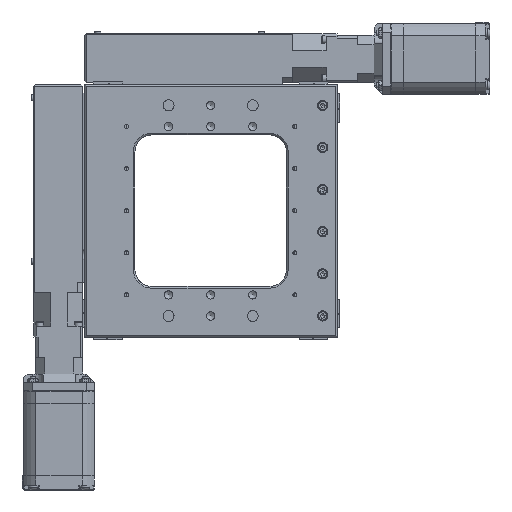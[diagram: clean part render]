
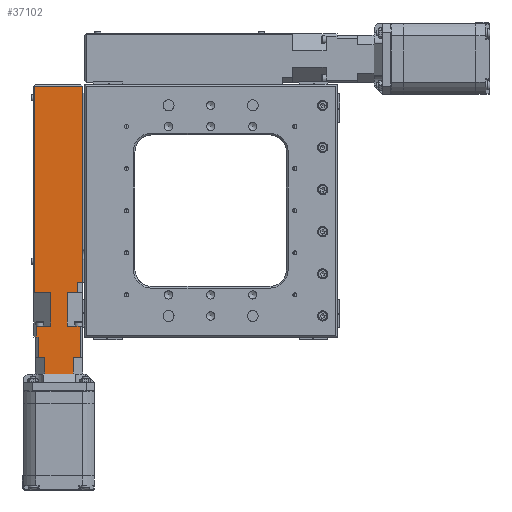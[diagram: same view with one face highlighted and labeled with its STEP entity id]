
A CAD part, front view. The second image highlights one B-rep face of the part: STEP entity #37102.
In plain terms, the highlighted planar face has unit normal (0, -1, 0).
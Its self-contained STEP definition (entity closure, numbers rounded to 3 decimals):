
#1402=LINE($,#57243,#4260);
#1866=LINE($,#59445,#4724);
#1896=LINE($,#59521,#4754);
#1915=LINE($,#59562,#4773);
#1933=LINE($,#59603,#4791);
#1967=LINE($,#59672,#4825);
#1978=LINE($,#59697,#4836);
#1979=LINE($,#59699,#4837);
#1985=LINE($,#59711,#4843);
#1990=LINE($,#59720,#4848);
#1992=LINE($,#59724,#4850);
#1996=LINE($,#59732,#4854);
#1997=LINE($,#59734,#4855);
#1998=LINE($,#59738,#4856);
#1999=LINE($,#59747,#4857);
#2000=LINE($,#59749,#4858);
#2001=LINE($,#59751,#4859);
#2002=LINE($,#59752,#4860);
#2003=LINE($,#59754,#4861);
#2004=LINE($,#59755,#4862);
#4260=VECTOR($,#46546,17.);
#4724=VECTOR($,#48606,28.5);
#4754=VECTOR($,#48664,116.5);
#4773=VECTOR($,#48701,122.5);
#4791=VECTOR($,#48729,18.5);
#4825=VECTOR($,#48777,6.5);
#4836=VECTOR($,#48802,6.);
#4837=VECTOR($,#48805,3.);
#4843=VECTOR($,#48819,6.);
#4848=VECTOR($,#48830,9.5);
#4850=VECTOR($,#48834,20.);
#4854=VECTOR($,#48844,20.);
#4855=VECTOR($,#48847,7.5);
#4856=VECTOR($,#48852,8.5);
#4857=VECTOR($,#48863,1.);
#4858=VECTOR($,#48864,12.);
#4859=VECTOR($,#48865,4.);
#4860=VECTOR($,#48866,10.);
#4861=VECTOR($,#48867,10.);
#4862=VECTOR($,#48868,4.);
#7475=PLANE($,#40849);
#10932=FACE_OUTER_BOUND($,#13739,.T.);
#13739=EDGE_LOOP($,(#30875,#30876,#30877,#30878,#30879,#30880,#30881,#30882,
#30883,#30884,#30885,#30886,#30887,#30888,#30889,#30890,#30891,#30892,#30893,
#30894));
#17879=VERTEX_POINT($,#57240);
#17880=VERTEX_POINT($,#57242);
#18478=VERTEX_POINT($,#59433);
#18482=VERTEX_POINT($,#59443);
#18514=VERTEX_POINT($,#59520);
#18527=VERTEX_POINT($,#59560);
#18544=VERTEX_POINT($,#59600);
#18545=VERTEX_POINT($,#59602);
#18572=VERTEX_POINT($,#59669);
#18573=VERTEX_POINT($,#59671);
#18579=VERTEX_POINT($,#59693);
#18580=VERTEX_POINT($,#59695);
#18582=VERTEX_POINT($,#59710);
#18583=VERTEX_POINT($,#59718);
#18584=VERTEX_POINT($,#59722);
#18585=VERTEX_POINT($,#59730);
#18589=VERTEX_POINT($,#59746);
#18590=VERTEX_POINT($,#59748);
#18591=VERTEX_POINT($,#59750);
#18592=VERTEX_POINT($,#59753);
#21941=EDGE_CURVE($,#17879,#17880,#1402,.T.);
#22870=EDGE_CURVE($,#18482,#18478,#1866,.T.);
#22906=EDGE_CURVE($,#18514,#18478,#1896,.T.);
#22927=EDGE_CURVE($,#18527,#18482,#1915,.T.);
#22947=EDGE_CURVE($,#18544,#18545,#1933,.T.);
#22983=EDGE_CURVE($,#18572,#18573,#1967,.T.);
#22996=EDGE_CURVE($,#18579,#18580,#1978,.T.);
#22997=EDGE_CURVE($,#18580,#18514,#1979,.T.);
#23003=EDGE_CURVE($,#18582,#18579,#1985,.T.);
#23008=EDGE_CURVE($,#18527,#18583,#1990,.T.);
#23010=EDGE_CURVE($,#18584,#18583,#1992,.T.);
#23014=EDGE_CURVE($,#18585,#18582,#1996,.T.);
#23015=EDGE_CURVE($,#18585,#18544,#1997,.T.);
#23017=EDGE_CURVE($,#18573,#18584,#1998,.T.);
#23020=EDGE_CURVE($,#18572,#18589,#1999,.T.);
#23021=EDGE_CURVE($,#18590,#18589,#2000,.T.);
#23022=EDGE_CURVE($,#18590,#18591,#2001,.T.);
#23023=EDGE_CURVE($,#18591,#17880,#2002,.T.);
#23024=EDGE_CURVE($,#17879,#18592,#2003,.T.);
#23025=EDGE_CURVE($,#18592,#18545,#2004,.T.);
#30875=ORIENTED_EDGE($,*,*,#22927,.F.);
#30876=ORIENTED_EDGE($,*,*,#23008,.T.);
#30877=ORIENTED_EDGE($,*,*,#23010,.F.);
#30878=ORIENTED_EDGE($,*,*,#23017,.F.);
#30879=ORIENTED_EDGE($,*,*,#22983,.F.);
#30880=ORIENTED_EDGE($,*,*,#23020,.T.);
#30881=ORIENTED_EDGE($,*,*,#23021,.F.);
#30882=ORIENTED_EDGE($,*,*,#23022,.T.);
#30883=ORIENTED_EDGE($,*,*,#23023,.T.);
#30884=ORIENTED_EDGE($,*,*,#21941,.F.);
#30885=ORIENTED_EDGE($,*,*,#23024,.T.);
#30886=ORIENTED_EDGE($,*,*,#23025,.T.);
#30887=ORIENTED_EDGE($,*,*,#22947,.F.);
#30888=ORIENTED_EDGE($,*,*,#23015,.F.);
#30889=ORIENTED_EDGE($,*,*,#23014,.T.);
#30890=ORIENTED_EDGE($,*,*,#23003,.T.);
#30891=ORIENTED_EDGE($,*,*,#22996,.T.);
#30892=ORIENTED_EDGE($,*,*,#22997,.T.);
#30893=ORIENTED_EDGE($,*,*,#22906,.T.);
#30894=ORIENTED_EDGE($,*,*,#22870,.F.);
#37102=ADVANCED_FACE($,(#10932),#7475,.T.);
#40849=AXIS2_PLACEMENT_3D($,#59745,#48861,#48862);
#46546=DIRECTION($,(-1.,0.,0.));
#48606=DIRECTION($,(1.,0.,0.));
#48664=DIRECTION($,(0.,0.,1.));
#48701=DIRECTION($,(0.,0.,1.));
#48729=DIRECTION($,(0.,0.,-1.));
#48777=DIRECTION($,(0.,0.,1.));
#48802=DIRECTION($,(0.,0.,1.));
#48805=DIRECTION($,(1.,0.,0.));
#48819=DIRECTION($,(1.,0.,0.));
#48830=DIRECTION($,(1.,0.,0.));
#48834=DIRECTION($,(0.,0.,1.));
#48844=DIRECTION($,(0.,0.,1.));
#48847=DIRECTION($,(1.,0.,0.));
#48852=DIRECTION($,(1.,0.,0.));
#48861=DIRECTION('center_axis',(0.,-1.,0.));
#48862=DIRECTION('ref_axis',(1.,0.,0.));
#48863=DIRECTION($,(1.,0.,0.));
#48864=DIRECTION($,(0.,0.,1.));
#48865=DIRECTION($,(1.,0.,0.));
#48866=DIRECTION($,(0.,0.,-1.));
#48867=DIRECTION($,(0.,0.,1.));
#48868=DIRECTION($,(1.,0.,0.));
#57240=CARTESIAN_POINT('',(9.249,-58.976,-22.));
#57242=CARTESIAN_POINT('',(-7.751,-58.976,-22.));
#57243=CARTESIAN_POINT($,(-6.251,-58.976,-22.));
#59433=CARTESIAN_POINT('',(14.749,-58.976,149.));
#59443=CARTESIAN_POINT('',(-13.751,-58.976,149.));
#59445=CARTESIAN_POINT($,(7.499,-58.976,149.));
#59520=CARTESIAN_POINT('',(14.749,-58.976,32.5));
#59521=CARTESIAN_POINT($,(14.749,-58.976,26.5));
#59560=CARTESIAN_POINT('',(-13.751,-58.976,26.5));
#59562=CARTESIAN_POINT($,(-13.751,-58.976,0.));
#59600=CARTESIAN_POINT('',(13.249,-58.976,6.5));
#59602=CARTESIAN_POINT('',(13.249,-58.976,-12.));
#59603=CARTESIAN_POINT($,(13.249,-58.976,-22.));
#59669=CARTESIAN_POINT('',(-12.751,-58.976,0.));
#59671=CARTESIAN_POINT('',(-12.751,-58.976,6.5));
#59672=CARTESIAN_POINT($,(-12.751,-58.976,0.));
#59693=CARTESIAN_POINT('',(11.749,-58.976,26.5));
#59695=CARTESIAN_POINT('',(11.749,-58.976,32.5));
#59697=CARTESIAN_POINT($,(11.749,-58.976,13.25));
#59699=CARTESIAN_POINT($,(-0.282,-58.976,32.5));
#59710=CARTESIAN_POINT('',(5.749,-58.976,26.5));
#59711=CARTESIAN_POINT($,(-14.251,-58.976,26.5));
#59718=CARTESIAN_POINT('',(-4.251,-58.976,26.5));
#59720=CARTESIAN_POINT($,(-14.251,-58.976,26.5));
#59722=CARTESIAN_POINT('',(-4.251,-58.976,6.5));
#59724=CARTESIAN_POINT($,(-4.251,-58.976,6.5));
#59730=CARTESIAN_POINT('',(5.749,-58.976,6.5));
#59732=CARTESIAN_POINT($,(5.749,-58.976,6.5));
#59734=CARTESIAN_POINT($,(-14.251,-58.976,6.5));
#59738=CARTESIAN_POINT($,(-14.251,-58.976,6.5));
#59745=CARTESIAN_POINT('Origin',(-14.251,-58.976,0.));
#59746=CARTESIAN_POINT('',(-11.751,-58.976,0.));
#59747=CARTESIAN_POINT($,(-14.251,-58.976,0.));
#59748=CARTESIAN_POINT('',(-11.751,-58.976,-12.));
#59749=CARTESIAN_POINT($,(-11.751,-58.976,-22.));
#59750=CARTESIAN_POINT('',(-7.751,-58.976,-12.));
#59751=CARTESIAN_POINT($,(-12.218,-58.976,-12.));
#59752=CARTESIAN_POINT($,(-7.751,-58.976,-22.));
#59753=CARTESIAN_POINT('',(9.249,-58.976,-12.));
#59754=CARTESIAN_POINT($,(9.249,-58.976,-22.));
#59755=CARTESIAN_POINT($,(-0.284,-58.976,-12.));
